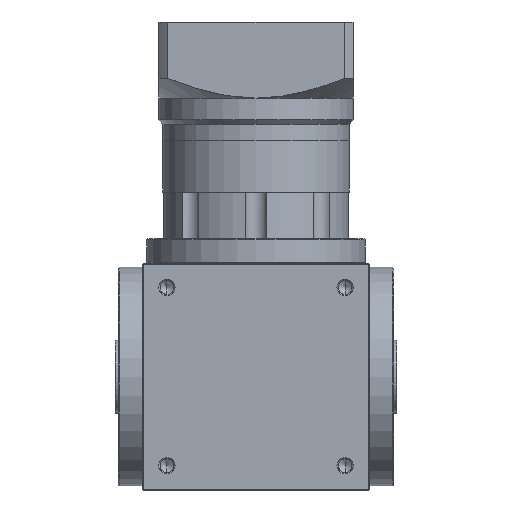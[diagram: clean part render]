
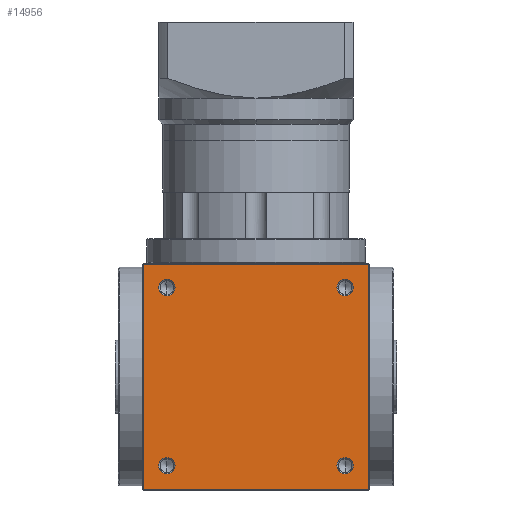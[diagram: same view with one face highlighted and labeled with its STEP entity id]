
A CAD part, front view. The second image highlights one B-rep face of the part: STEP entity #14956.
In plain terms, the highlighted planar face has unit normal (0, -1, 0).
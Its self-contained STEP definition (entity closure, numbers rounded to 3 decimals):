
#366 = EDGE_CURVE ( 'NONE', #5315, #19078, #11850, .T. ) ;
#1006 = FACE_BOUND ( 'NONE', #12095, .T. ) ;
#2296 = EDGE_CURVE ( 'NONE', #15602, #44974, #26934, .T. ) ;
#2995 = CARTESIAN_POINT ( 'NONE',  ( 55., -70., 15. ) ) ;
#3163 = DIRECTION ( 'NONE',  ( 0., -1., 0. ) ) ;
#3975 = CARTESIAN_POINT ( 'NONE',  ( -55., -70., 9.975 ) ) ;
#4849 = AXIS2_PLACEMENT_3D ( 'NONE', #36970, #13521, #40980 ) ;
#5315 = VERTEX_POINT ( 'NONE', #47512 ) ;
#5436 = AXIS2_PLACEMENT_3D ( 'NONE', #19963, #47451, #23908 ) ;
#6431 = DIRECTION ( 'NONE',  ( 0., 0., -1. ) ) ;
#7405 = DIRECTION ( 'NONE',  ( 0., 0., 1. ) ) ;
#7703 = VERTEX_POINT ( 'NONE', #50454 ) ;
#7782 = ORIENTED_EDGE ( 'NONE', *, *, #20661, .F. ) ;
#7902 = CIRCLE ( 'NONE', #22767, 5.025 ) ;
#8364 = CARTESIAN_POINT ( 'NONE',  ( 55., -70., 130.025 ) ) ;
#8378 = ORIENTED_EDGE ( 'NONE', *, *, #47292, .F. ) ;
#8446 = ORIENTED_EDGE ( 'NONE', *, *, #26546, .F. ) ;
#10421 = AXIS2_PLACEMENT_3D ( 'NONE', #48447, #17011, #40537 ) ;
#10586 = CARTESIAN_POINT ( 'NONE',  ( -70., -70., 139.5 ) ) ;
#11387 = FACE_BOUND ( 'NONE', #35966, .T. ) ;
#11850 = CIRCLE ( 'NONE', #17158, 5.025 ) ;
#11998 = ORIENTED_EDGE ( 'NONE', *, *, #19029, .F. ) ;
#12016 = ORIENTED_EDGE ( 'NONE', *, *, #35498, .F. ) ;
#12062 = VECTOR ( 'NONE', #18385, 1000. ) ;
#12095 = EDGE_LOOP ( 'NONE', ( #11998, #39152 ) ) ;
#12191 = EDGE_CURVE ( 'NONE', #37607, #7703, #7902, .T. ) ;
#12204 = CARTESIAN_POINT ( 'NONE',  ( -70., -70., 140. ) ) ;
#13009 = VECTOR ( 'NONE', #37019, 1000. ) ;
#13307 = CARTESIAN_POINT ( 'NONE',  ( -55., -70., 15. ) ) ;
#13521 = DIRECTION ( 'NONE',  ( 0., -1., 0. ) ) ;
#14933 = EDGE_LOOP ( 'NONE', ( #8446, #8378 ) ) ;
#14956 = ADVANCED_FACE ( 'NONE', ( #24198, #22971, #11387, #1006, #41409 ), #35635, .F. ) ;
#15028 = CARTESIAN_POINT ( 'NONE',  ( 55., -70., 119.975 ) ) ;
#15454 = CARTESIAN_POINT ( 'NONE',  ( -69.5, -70., 0.5 ) ) ;
#15602 = VERTEX_POINT ( 'NONE', #21273 ) ;
#17011 = DIRECTION ( 'NONE',  ( 0., -1., 0. ) ) ;
#17158 = AXIS2_PLACEMENT_3D ( 'NONE', #2995, #3163, #6431 ) ;
#17196 = DIRECTION ( 'NONE',  ( 0., 0., -1. ) ) ;
#17457 = CARTESIAN_POINT ( 'NONE',  ( 69.5, -70., 0.5 ) ) ;
#17469 = CARTESIAN_POINT ( 'NONE',  ( -70., -70., 0.5 ) ) ;
#18146 = AXIS2_PLACEMENT_3D ( 'NONE', #13307, #40740, #17196 ) ;
#18385 = DIRECTION ( 'NONE',  ( 1., 0., 0. ) ) ;
#19029 = EDGE_CURVE ( 'NONE', #44974, #15602, #41121, .T. ) ;
#19078 = VERTEX_POINT ( 'NONE', #21608 ) ;
#19470 = ORIENTED_EDGE ( 'NONE', *, *, #28177, .F. ) ;
#19785 = DIRECTION ( 'NONE',  ( 0., -1., 0. ) ) ;
#19963 = CARTESIAN_POINT ( 'NONE',  ( -55., -70., 125. ) ) ;
#19991 = EDGE_CURVE ( 'NONE', #19078, #5315, #34281, .T. ) ;
#20014 = DIRECTION ( 'NONE',  ( 0., 0., 1. ) ) ;
#20079 = LINE ( 'NONE', #34539, #39772 ) ;
#20655 = VERTEX_POINT ( 'NONE', #22831 ) ;
#20661 = EDGE_CURVE ( 'NONE', #21519, #47783, #20079, .T. ) ;
#21024 = DIRECTION ( 'NONE',  ( 0., -1., 0. ) ) ;
#21152 = LINE ( 'NONE', #10586, #12062 ) ;
#21273 = CARTESIAN_POINT ( 'NONE',  ( -55., -70., 20.025 ) ) ;
#21519 = VERTEX_POINT ( 'NONE', #15454 ) ;
#21608 = CARTESIAN_POINT ( 'NONE',  ( 55., -70., 9.975 ) ) ;
#21623 = AXIS2_PLACEMENT_3D ( 'NONE', #43358, #19785, #47270 ) ;
#22072 = CARTESIAN_POINT ( 'NONE',  ( 69.5, -70., 140. ) ) ;
#22767 = AXIS2_PLACEMENT_3D ( 'NONE', #44124, #44062, #44058 ) ;
#22831 = CARTESIAN_POINT ( 'NONE',  ( 69.5, -70., 139.5 ) ) ;
#22971 = FACE_BOUND ( 'NONE', #49147, .T. ) ;
#23260 = VERTEX_POINT ( 'NONE', #17457 ) ;
#23459 = CIRCLE ( 'NONE', #5436, 5.025 ) ;
#23908 = DIRECTION ( 'NONE',  ( 0., 0., -1. ) ) ;
#24198 = FACE_BOUND ( 'NONE', #14933, .T. ) ;
#25833 = ORIENTED_EDGE ( 'NONE', *, *, #38799, .F. ) ;
#26006 = DIRECTION ( 'NONE',  ( 0., 0., -1. ) ) ;
#26402 = VERTEX_POINT ( 'NONE', #15028 ) ;
#26546 = EDGE_CURVE ( 'NONE', #26402, #47190, #45719, .T. ) ;
#26934 = CIRCLE ( 'NONE', #10421, 5.025 ) ;
#28177 = EDGE_CURVE ( 'NONE', #7703, #37607, #23459, .T. ) ;
#29165 = ORIENTED_EDGE ( 'NONE', *, *, #366, .F. ) ;
#29173 = AXIS2_PLACEMENT_3D ( 'NONE', #12204, #43562, #20014 ) ;
#31239 = LINE ( 'NONE', #22072, #40477 ) ;
#33820 = EDGE_CURVE ( 'NONE', #23260, #21519, #33833, .T. ) ;
#33833 = LINE ( 'NONE', #17469, #13009 ) ;
#34281 = CIRCLE ( 'NONE', #4849, 5.025 ) ;
#34539 = CARTESIAN_POINT ( 'NONE',  ( -69.5, -70., 140. ) ) ;
#35498 = EDGE_CURVE ( 'NONE', #20655, #23260, #31239, .T. ) ;
#35635 = PLANE ( 'NONE',  #29173 ) ;
#35966 = EDGE_LOOP ( 'NONE', ( #42477, #29165 ) ) ;
#36970 = CARTESIAN_POINT ( 'NONE',  ( 55., -70., 15. ) ) ;
#36986 = CIRCLE ( 'NONE', #39118, 5.025 ) ;
#37019 = DIRECTION ( 'NONE',  ( -1., 0., 0. ) ) ;
#37607 = VERTEX_POINT ( 'NONE', #38496 ) ;
#38496 = CARTESIAN_POINT ( 'NONE',  ( -55., -70., 119.975 ) ) ;
#38799 = EDGE_CURVE ( 'NONE', #47783, #20655, #21152, .T. ) ;
#39118 = AXIS2_PLACEMENT_3D ( 'NONE', #44586, #21024, #48560 ) ;
#39152 = ORIENTED_EDGE ( 'NONE', *, *, #2296, .F. ) ;
#39689 = ORIENTED_EDGE ( 'NONE', *, *, #12191, .F. ) ;
#39772 = VECTOR ( 'NONE', #7405, 1000. ) ;
#40477 = VECTOR ( 'NONE', #26006, 1000. ) ;
#40537 = DIRECTION ( 'NONE',  ( 0., 0., -1. ) ) ;
#40740 = DIRECTION ( 'NONE',  ( 0., -1., 0. ) ) ;
#40980 = DIRECTION ( 'NONE',  ( 0., 0., -1. ) ) ;
#41121 = CIRCLE ( 'NONE', #18146, 5.025 ) ;
#41409 = FACE_OUTER_BOUND ( 'NONE', #44372, .T. ) ;
#42477 = ORIENTED_EDGE ( 'NONE', *, *, #19991, .F. ) ;
#43358 = CARTESIAN_POINT ( 'NONE',  ( 55., -70., 125. ) ) ;
#43562 = DIRECTION ( 'NONE',  ( 0., 1., 0. ) ) ;
#44058 = DIRECTION ( 'NONE',  ( 0., 0., -1. ) ) ;
#44062 = DIRECTION ( 'NONE',  ( 0., -1., 0. ) ) ;
#44124 = CARTESIAN_POINT ( 'NONE',  ( -55., -70., 125. ) ) ;
#44372 = EDGE_LOOP ( 'NONE', ( #47148, #12016, #25833, #7782 ) ) ;
#44586 = CARTESIAN_POINT ( 'NONE',  ( 55., -70., 125. ) ) ;
#44974 = VERTEX_POINT ( 'NONE', #3975 ) ;
#45719 = CIRCLE ( 'NONE', #21623, 5.025 ) ;
#47148 = ORIENTED_EDGE ( 'NONE', *, *, #33820, .F. ) ;
#47190 = VERTEX_POINT ( 'NONE', #8364 ) ;
#47270 = DIRECTION ( 'NONE',  ( 0., 0., -1. ) ) ;
#47292 = EDGE_CURVE ( 'NONE', #47190, #26402, #36986, .T. ) ;
#47451 = DIRECTION ( 'NONE',  ( 0., -1., 0. ) ) ;
#47512 = CARTESIAN_POINT ( 'NONE',  ( 55., -70., 20.025 ) ) ;
#47783 = VERTEX_POINT ( 'NONE', #49190 ) ;
#48447 = CARTESIAN_POINT ( 'NONE',  ( -55., -70., 15. ) ) ;
#48560 = DIRECTION ( 'NONE',  ( 0., 0., -1. ) ) ;
#49147 = EDGE_LOOP ( 'NONE', ( #39689, #19470 ) ) ;
#49190 = CARTESIAN_POINT ( 'NONE',  ( -69.5, -70., 139.5 ) ) ;
#50454 = CARTESIAN_POINT ( 'NONE',  ( -55., -70., 130.025 ) ) ;
